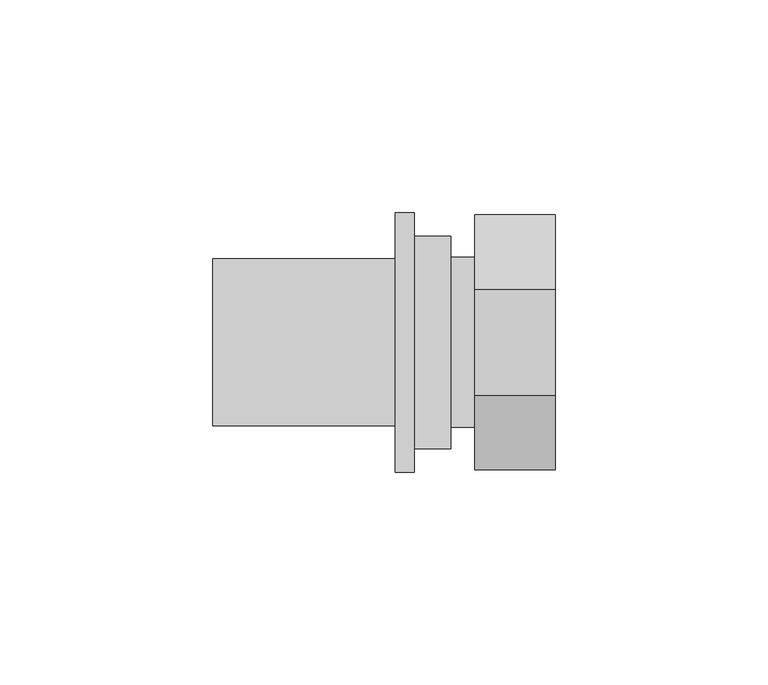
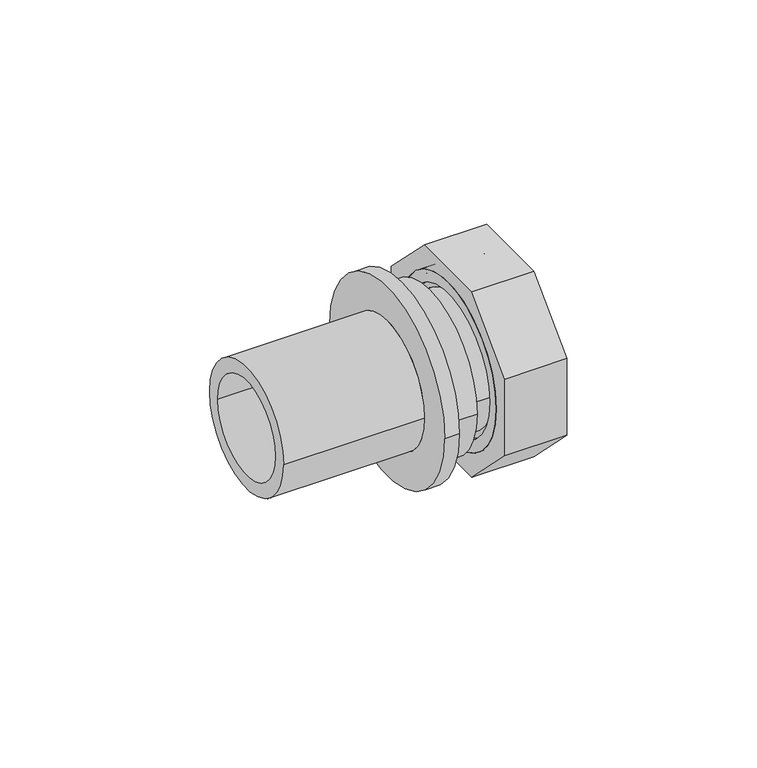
"""IFC4 building model written with IfcOpenShell, lengths in millimetres: pipe fitting geometry, REHAU_RAUTITAN_Adaptor_RX+_union nut : REHAU_RAUTITAN_Adaptor_RX+_union nut."""

import ifcopenshell
import ifcopenshell.guid

model = None  # the IFC model being written
_history = None  # IfcOwnerHistory: only IFC2X3 demands one
_inside = {}  # id of a spatial element -> (the spatial element, [elements in it])
_under = {}  # id of a project, library or spatial element -> (it, [spatial elements below it])
_declared = {}  # id of a project -> (the project, [libraries it declares])
_typed = {}  # id of a type object -> (the type object, [elements of that type])
_made_of = {}  # id of a material, layer set ... -> (it, [elements and type objects made of it])


def new_model(schema):
    """Start an empty IFC model of exactly this schema.

    Asked for "IFC4X3", IfcOpenShell would pick the latest addendum, in which some entities
    have other attributes; the version numbers below select the first issue.
    IFC2X3 requires an IfcOwnerHistory on every rooted entity: one is made here for all.
    """
    global model, _history
    if schema == "IFC4X3":
        model = ifcopenshell.file(schema_version=(4, 3, 0, 0))
    else:
        model = ifcopenshell.file(schema=schema)
    _inside.clear()
    _under.clear()
    _declared.clear()
    _typed.clear()
    _made_of.clear()
    _history = None
    if model.schema == "IFC2X3":
        org = make("IfcOrganization", Name="unknown")
        user = make(
            "IfcPersonAndOrganization",
            ThePerson=make("IfcPerson", FamilyName="unknown"),
            TheOrganization=org,
        )
        app = make(
            "IfcApplication",
            ApplicationDeveloper=org,
            Version="unknown",
            ApplicationFullName="unknown",
            ApplicationIdentifier="unknown",
        )
        _history = make(
            "IfcOwnerHistory",
            OwningUser=user,
            OwningApplication=app,
            ChangeAction="ADDED",
            CreationDate=0,
        )
    return model


def make(cls, **values):
    """One entity of the class cls with the attributes given. An attribute that is None is left unset."""
    return model.create_entity(
        cls, **{name: value for name, value in values.items() if value is not None}
    )


def rooted(cls, **values):
    """An entity with a GlobalId (a new one), such as an element, a storey or a relation."""
    return make(cls, GlobalId=ifcopenshell.guid.new(), OwnerHistory=_history, **values)


def si_unit(unit_type, name, prefix=None):
    """IfcSIUnit, for example si_unit("LENGTHUNIT", "METRE", prefix="MILLI")."""
    return make("IfcSIUnit", UnitType=unit_type, Prefix=prefix, Name=name)


def assignment(units):
    """IfcUnitAssignment: the units of a project."""
    return None if units is None else make("IfcUnitAssignment", Units=units)


def point(xyz):
    """IfcCartesianPoint."""
    return None if xyz is None else make("IfcCartesianPoint", Coordinates=xyz)


def direction(xyz):
    """IfcDirection."""
    return None if xyz is None else make("IfcDirection", DirectionRatios=xyz)


def frame(location, z_axis=None, x_axis=None):
    """IfcAxis2Placement3D, a coordinate frame: its origin and axes. An axis left out is left unset."""
    return make(
        "IfcAxis2Placement3D",
        Location=point(location),
        Axis=direction(z_axis),
        RefDirection=direction(x_axis),
    )


def frame_2d(location, x_axis=None):
    """IfcAxis2Placement2D, a coordinate frame in the plane: its origin and x axis."""
    return make(
        "IfcAxis2Placement2D", Location=point(location), RefDirection=direction(x_axis)
    )


def origin():
    """The frame at (0, 0, 0) with its axes left unset."""
    return frame((0.0, 0.0, 0.0))


def origin_2d():
    """The frame at (0, 0) in the plane with its x axis left unset."""
    return frame_2d((0.0, 0.0))


def place(relative_to, where):
    """IfcLocalPlacement: puts the frame where relative to a parent placement (None: the world)."""
    return make(
        "IfcLocalPlacement", PlacementRelTo=relative_to, RelativePlacement=where
    )


def context(
    kind, dimensions, precision=None, world=None, true_north=None, identifier=None
):
    """IfcGeometricRepresentationContext, for example the 3D "Model" context."""
    return make(
        "IfcGeometricRepresentationContext",
        ContextIdentifier=identifier,
        ContextType=kind,
        CoordinateSpaceDimension=dimensions,
        Precision=precision,
        WorldCoordinateSystem=world,
        TrueNorth=true_north,
    )


def project(units=None, contexts=None):
    """IfcProject with its units and contexts."""
    return rooted(
        "IfcProject",
        Name="project",
        RepresentationContexts=contexts,
        UnitsInContext=assignment(units),
    )


def spatial(cls, under=None, at=None, **own):
    """A site, building, storey or space (cls), placed at a placement, below another one or the project."""
    s = rooted(cls, ObjectPlacement=at, **own)
    if under is not None:
        _under.setdefault(under.id(), (under, []))[1].append(s)
    return s


def polyline(points):
    """IfcPolyline through the points."""
    return make("IfcPolyline", Points=[point(p) for p in points])


def circle_curve(where, radius):
    """IfcCircle in the frame where."""
    return make("IfcCircle", Position=where, Radius=radius)


def trimmed(basis, trim1, trim2, sense, master):
    """IfcTrimmedCurve: the piece of a basis curve between two trims."""
    return make(
        "IfcTrimmedCurve",
        BasisCurve=basis,
        Trim1=trim1,
        Trim2=trim2,
        SenseAgreement=sense,
        MasterRepresentation=master,
    )


def segment(curve, same_sense, transition):
    """IfcCompositeCurveSegment."""
    return make(
        "IfcCompositeCurveSegment",
        Transition=transition,
        SameSense=same_sense,
        ParentCurve=curve,
    )


def composite_curve(segments, self_intersect=None):
    """IfcCompositeCurve: segments joined end to end."""
    return make("IfcCompositeCurve", Segments=segments, SelfIntersect=self_intersect)


def outline(outer, holes=None, kind="AREA"):
    """IfcArbitraryClosedProfileDef: a profile drawn as a closed curve; with holes, ...WithVoids."""
    if holes is None:
        return make("IfcArbitraryClosedProfileDef", ProfileType=kind, OuterCurve=outer)
    return make(
        "IfcArbitraryProfileDefWithVoids",
        ProfileType=kind,
        OuterCurve=outer,
        InnerCurves=holes,
    )


def extrude(swept, where, along, depth):
    """IfcExtrudedAreaSolid: the profile swept, set in the frame where, extruded along a direction by depth."""
    return make(
        "IfcExtrudedAreaSolid",
        SweptArea=swept,
        Position=where,
        ExtrudedDirection=direction(along),
        Depth=depth,
    )


def shape(context_of_items, identifier, shape_type, items):
    """IfcShapeRepresentation: the items that make up one representation, for example the "Body"."""
    return make(
        "IfcShapeRepresentation",
        ContextOfItems=context_of_items,
        RepresentationIdentifier=identifier,
        RepresentationType=shape_type,
        Items=items,
    )


def source(mapping_origin, context_of_items, identifier, shape_type, items):
    """IfcRepresentationMap: a shape defined once, which mapped items show again and again."""
    return make(
        "IfcRepresentationMap",
        MappingOrigin=mapping_origin,
        MappedRepresentation=shape(context_of_items, identifier, shape_type, items),
    )


def transform(
    local_origin,
    x_axis=None,
    y_axis=None,
    z_axis=None,
    scale=None,
    scale2=None,
    scale3=None,
    uniform=True,
):
    """IfcCartesianTransformationOperator3D, or its non-uniform kind. x_axis, y_axis, z_axis: its Axis1, 2, 3."""
    if uniform:
        return make(
            "IfcCartesianTransformationOperator3D",
            Axis1=direction(x_axis),
            Axis2=direction(y_axis),
            LocalOrigin=point(local_origin),
            Scale=scale,
            Axis3=direction(z_axis),
        )
    return make(
        "IfcCartesianTransformationOperator3DnonUniform",
        Axis1=direction(x_axis),
        Axis2=direction(y_axis),
        LocalOrigin=point(local_origin),
        Scale=scale,
        Axis3=direction(z_axis),
        Scale2=scale2,
        Scale3=scale3,
    )


def mapped(mapping_source, mapping_target):
    """IfcMappedItem: shows the shape of a source again, moved by a transform."""
    return make(
        "IfcMappedItem", MappingSource=mapping_source, MappingTarget=mapping_target
    )


def made_of(thing, what):
    """Note that an element or type object is made of a material, layer set ...; save() writes the relation."""
    if what is not None:
        _made_of.setdefault(what.id(), (what, []))[1].append(thing)
    return thing


def element(
    cls,
    number,
    at=None,
    inside=None,
    cuts=None,
    type_object=None,
    material=None,
    context=None,
    identifier="Body",
    shape_type=None,
    held_by="IfcProductDefinitionShape",
    body=None,
    shapes=None,
    **own,
):
    """One element of the class cls, such as IfcWall. Its Tag is "e" and its number.

    at: its placement. inside: the storey or other place that contains it. cuts: it is an
    opening in that element (IfcRelVoidsElement). A single representation is given by context,
    identifier, shape_type and body (its items); several are given by shapes. held_by: the class
    of the entity that holds the representations. save() writes the other relations.
    """
    e = rooted(cls, Tag="e%d" % number, ObjectPlacement=at, **own)
    if body is not None:
        shapes = [shape(context, identifier, shape_type, body)]
    if shapes is not None:
        e.Representation = make(held_by, Representations=shapes)
    if inside is not None:
        _inside.setdefault(inside.id(), (inside, []))[1].append(e)
    if cuts is not None:
        rooted(
            "IfcRelVoidsElement", RelatingBuildingElement=cuts, RelatedOpeningElement=e
        )
    if type_object is not None:
        _typed.setdefault(type_object.id(), (type_object, []))[1].append(e)
    return made_of(e, material)


def aggregate(whole, parts):
    """IfcRelAggregates: a whole, such as a stair, and the parts it consists of."""
    return rooted("IfcRelAggregates", RelatingObject=whole, RelatedObjects=parts)


def save(model, path):
    """Write the relations noted so far, then the file.

    IfcRelAggregates (storeys below a building ...), IfcRelContainedInSpatialStructure (elements
    in a storey), IfcRelDefinesByType, IfcRelAssociatesMaterial and IfcRelDeclares: one each for
    every whole, place, type object, material and project.
    """
    for whole, parts in _under.values():
        aggregate(whole, parts)
    for where, things in _inside.values():
        rooted(
            "IfcRelContainedInSpatialStructure",
            RelatedElements=things,
            RelatingStructure=where,
        )
    for kind, things in _typed.values():
        rooted("IfcRelDefinesByType", RelatedObjects=things, RelatingType=kind)
    for what, things in _made_of.values():
        rooted("IfcRelAssociatesMaterial", RelatedObjects=things, RelatingMaterial=what)
    for by, libraries in _declared.values():
        rooted("IfcRelDeclares", RelatingContext=by, RelatedDefinitions=libraries)
    model.write(path)


def plane_surface(at):
    """IfcPlane: the flat surface through the origin of the frame at, square to its z axis."""
    return make("IfcPlane", Position=at)


def cylinder_surface(at, radius):
    """IfcCylindricalSurface: all points at the distance radius from the z axis of the frame at."""
    return make("IfcCylindricalSurface", Position=at, Radius=radius)


def revolved_surface(curve, axis_point, axis_direction):
    """IfcSurfaceOfRevolution: the curve turned about the line through axis_point along axis_direction."""
    return make(
        "IfcSurfaceOfRevolution",
        SweptCurve=make("IfcArbitraryOpenProfileDef", ProfileType="CURVE", Curve=curve),
        AxisPosition=make("IfcAxis1Placement", Location=point(axis_point), Axis=direction(axis_direction)),
    )


def advanced_brep(points, edges, surfaces, faces):
    """IfcAdvancedBrep: a solid bounded by faces that lie on surfaces and meet in shared edges.

    An edge is (start, end): straight between two places in points (the first is 0);
    or (start, end, curve); or (start, end, curve, False) where it runs against its curve.
    A face is (place in surfaces, loops), or (place, loops, False) where it looks against
    its surface's normal. A loop lists edges by number (the first is 1), with a minus sign
    where the edge is run from its end to its start. The first loop is the outer one.
    """
    corners = [point(p) for p in points]
    vertices = [make("IfcVertexPoint", VertexGeometry=c) for c in corners]
    made = []
    for start, end, *more in edges:
        made.append(
            make(
                "IfcEdgeCurve",
                EdgeStart=vertices[start],
                EdgeEnd=vertices[end],
                EdgeGeometry=more[0] if more else make("IfcPolyline", Points=[corners[start], corners[end]]),
                SameSense=more[1] if len(more) > 1 else True,
            )
        )
    hull = []
    for where, loops, *sense in faces:
        bounds = []
        for j, loop in enumerate(loops):
            ring = [make("IfcOrientedEdge", EdgeElement=made[abs(k) - 1], Orientation=k > 0) for k in loop]
            bounds.append(
                make(
                    "IfcFaceOuterBound" if j == 0 else "IfcFaceBound",
                    Bound=make("IfcEdgeLoop", EdgeList=ring),
                    Orientation=True,
                )
            )
        hull.append(make("IfcAdvancedFace", Bounds=bounds, FaceSurface=surfaces[where], SameSense=sense[0] if sense else True))
    return make("IfcAdvancedBrep", Outer=make("IfcClosedShell", CfsFaces=hull))


def pipe_fitting_44745cd8(model_context):
    return source(origin(), model_context, "Body", "SolidModel", [
        extrude(outline(polyline([(-12.4264069, -30.0), (-30.0, -12.4264069), (-30.0, 12.4264069), (-12.4264069, 30.0), (12.4264069, 30.0), (30.0, 12.4264069), (30.0, -12.4264069), (12.4264069, -30.0), (-12.4264069, -30.0)]), holes=[composite_curve([segment(trimmed(circle_curve(origin_2d(), 25.5), [point((-25.5, 0.0))], [point((25.5, 0.0))], True, "CARTESIAN"), True, "CONTINUOUS"), segment(trimmed(circle_curve(origin_2d(), 25.5), [point((25.5, 0.0))], [point((-25.5, 0.0))], True, "CARTESIAN"), True, "CONTINUOUS")], self_intersect=False)]), frame((5.6, 0.0, 0.0), z_axis=(1.0, 0.0, 0.0), x_axis=(0.0, 1.0, 0.0)), (0.0, 0.0, 1.0), 19.0),
        advanced_brep(
        [(24.6, 25.5, 0.0), (24.6, -25.5, 0.0), (5.6, -25.5, 0.0), (5.6, 25.5, 0.0), (7.6, 23.95, 0.0), (7.6, -23.95, 0.0), (24.6, -23.95, 0.0), (24.6, 23.95, 0.0), (5.6, 21.95, 0.0), (5.6, -21.95, 0.0), (7.6, -21.95, 0.0), (7.6, 21.95, 0.0)],
        [
            (0, 1, circle_curve(frame((24.6, 0.0, 0.0), z_axis=(-1.0, 0.0, 0.0), x_axis=(0.0, -1.0, 0.0)), 25.5)),
            (1, 2),
            (2, 3, circle_curve(frame((5.6, 0.0, 0.0), z_axis=(1.0, 0.0, 0.0), x_axis=(0.0, -1.0, 0.0)), 25.5)),
            (3, 0),
            (4, 5, circle_curve(frame((7.6, 0.0, 0.0), z_axis=(-1.0, 0.0, 0.0), x_axis=(0.0, -1.0, 0.0)), 23.95)),
            (5, 6),
            (6, 7, circle_curve(frame((24.6, 0.0, 0.0), z_axis=(1.0, 0.0, 0.0), x_axis=(0.0, -1.0, 0.0)), 23.95)),
            (7, 4),
            (8, 9, circle_curve(frame((5.6, 0.0, 0.0), z_axis=(-1.0, 0.0, 0.0), x_axis=(0.0, -1.0, 0.0)), 21.95)),
            (9, 10),
            (10, 11, circle_curve(frame((7.6, 0.0, 0.0), z_axis=(1.0, 0.0, 0.0), x_axis=(0.0, -1.0, 0.0)), 21.95)),
            (11, 8),
            (1, 0, circle_curve(frame((24.6, 0.0, 0.0), z_axis=(-1.0, 0.0, 0.0), x_axis=(0.0, 1.0, 0.0)), 25.5)),
            (3, 2, circle_curve(frame((5.6, 0.0, 0.0), z_axis=(1.0, 0.0, 0.0), x_axis=(0.0, 1.0, 0.0)), 25.5)),
            (6, 7, circle_curve(frame((24.6, 0.0, 0.0), z_axis=(-1.0, 0.0, 0.0), x_axis=(0.0, 1.0, 0.0)), 23.95)),
            (5, 4, circle_curve(frame((7.6, 0.0, 0.0), z_axis=(-1.0, 0.0, 0.0), x_axis=(0.0, 1.0, 0.0)), 23.95)),
            (10, 11, circle_curve(frame((7.6, 0.0, 0.0), z_axis=(-1.0, 0.0, 0.0), x_axis=(0.0, 1.0, 0.0)), 21.95)),
            (9, 8, circle_curve(frame((5.6, 0.0, 0.0), z_axis=(-1.0, 0.0, 0.0), x_axis=(0.0, 1.0, 0.0)), 21.95)),
        ],
        [
            cylinder_surface(frame((0.0, 0.0, 0.0), z_axis=(1.0, 0.0, 0.0), x_axis=(0.0, -1.0, 0.0)), 25.5),
            revolved_surface(polyline([(24.6, -23.95, 0.0), (7.6, -23.95, 0.0)]), (0.0, 0.0, 0.0), (1.0, 0.0, 0.0)),
            revolved_surface(polyline([(7.6, -21.95, 0.0), (5.6, -21.95, 0.0)]), (0.0, 0.0, 0.0), (1.0, 0.0, 0.0)),
            cylinder_surface(frame((0.0, 0.0, 0.0), z_axis=(1.0, 0.0, 0.0), x_axis=(0.0, 1.0, 0.0)), 25.5),
            plane_surface(frame((24.6, 0.0, 0.0), z_axis=(1.0, 0.0, 0.0), x_axis=(0.0, 1.0, 0.0))),
            revolved_surface(polyline([(24.6, 23.95, 0.0), (7.6, 23.95, 0.0)]), (0.0, 0.0, 0.0), (1.0, 0.0, 0.0)),
            plane_surface(frame((7.6, 0.0, 0.0), z_axis=(1.0, 0.0, 0.0), x_axis=(0.0, 1.0, 0.0))),
            revolved_surface(polyline([(7.6, 21.95, 0.0), (5.6, 21.95, 0.0)]), (0.0, 0.0, 0.0), (1.0, 0.0, 0.0)),
            plane_surface(frame((5.6, 0.0, 0.0), z_axis=(-1.0, 0.0, 0.0), x_axis=(0.0, 1.0, 0.0))),
        ],
        [
            (0, [[1, 2, 3, 4]]),
            (1, [[5, 6, 7, 8]]),
            (2, [[9, 10, 11, 12]]),
            (3, [[13, -4, 14, -2]]),
            (4, [[-13, -1], [15, -7]]),
            (5, [[16, -8, -15, -6]]),
            (6, [[-16, -5], [17, -11]]),
            (7, [[18, -12, -17, -10]]),
            (8, [[-14, -3], [-18, -9]]),
        ],
    ),
        advanced_brep(
        [(7.6, 20.0, 0.0), (7.6, -20.0, 0.0), (0.0, -20.0, 0.0), (0.0, 20.0, 0.0), (11.0, 23.95, 0.0), (11.0, -23.95, 0.0), (7.6, -23.95, 0.0), (7.6, 23.95, 0.0), (1.4730817, 13.5, 0.0), (1.4730817, -13.5, 0.0), (11.0, -13.5, 0.0), (11.0, 13.5, 0.0), (0.0, 11.3264556, 0.0), (0.0, -11.3264556, 0.0), (1.4730817, -11.3264556, 0.0), (1.4730817, 11.3264556, 0.0)],
        [
            (0, 1, circle_curve(frame((7.6, 0.0, 0.0), z_axis=(-1.0, 0.0, 0.0), x_axis=(0.0, -1.0, 0.0)), 20.0)),
            (1, 2),
            (2, 3, circle_curve(frame((0.0, 0.0, 0.0), z_axis=(1.0, 0.0, 0.0), x_axis=(0.0, -1.0, 0.0)), 20.0)),
            (3, 0),
            (4, 5, circle_curve(frame((11.0, 0.0, 0.0), z_axis=(-1.0, 0.0, 0.0), x_axis=(0.0, -1.0, 0.0)), 23.95)),
            (5, 6),
            (6, 7, circle_curve(frame((7.6, 0.0, 0.0), z_axis=(1.0, 0.0, 0.0), x_axis=(0.0, -1.0, 0.0)), 23.95)),
            (7, 4),
            (8, 9, circle_curve(frame((1.4730817, 0.0, 0.0), z_axis=(-1.0, 0.0, 0.0), x_axis=(0.0, -1.0, 0.0)), 13.5)),
            (9, 10),
            (10, 11, circle_curve(frame((11.0, 0.0, 0.0), z_axis=(1.0, 0.0, 0.0), x_axis=(0.0, -1.0, 0.0)), 13.5)),
            (11, 8),
            (2, 3, circle_curve(frame((0.0, 0.0, 0.0), z_axis=(-1.0, 0.0, 0.0), x_axis=(0.0, 1.0, 0.0)), 20.0)),
            (12, 13, circle_curve(frame((0.0, 0.0, 0.0), z_axis=(1.0, 0.0, 0.0), x_axis=(0.0, 1.0, 0.0)), 11.3264556)),
            (13, 12, circle_curve(frame((0.0, 0.0, 0.0), z_axis=(1.0, 0.0, 0.0), x_axis=(0.0, -1.0, 0.0)), 11.3264556)),
            (1, 0, circle_curve(frame((7.6, 0.0, 0.0), z_axis=(-1.0, 0.0, 0.0), x_axis=(0.0, 1.0, 0.0)), 20.0)),
            (6, 7, circle_curve(frame((7.6, 0.0, 0.0), z_axis=(-1.0, 0.0, 0.0), x_axis=(0.0, 1.0, 0.0)), 23.95)),
            (5, 4, circle_curve(frame((11.0, 0.0, 0.0), z_axis=(-1.0, 0.0, 0.0), x_axis=(0.0, 1.0, 0.0)), 23.95)),
            (10, 11, circle_curve(frame((11.0, 0.0, 0.0), z_axis=(-1.0, 0.0, 0.0), x_axis=(0.0, 1.0, 0.0)), 13.5)),
            (9, 8, circle_curve(frame((1.4730817, 0.0, 0.0), z_axis=(-1.0, 0.0, 0.0), x_axis=(0.0, 1.0, 0.0)), 13.5)),
            (13, 14),
            (14, 15, circle_curve(frame((1.4730817, 0.0, 0.0), z_axis=(1.0, 0.0, 0.0), x_axis=(0.0, -1.0, 0.0)), 11.3264556)),
            (15, 12),
            (14, 15, circle_curve(frame((1.4730817, 0.0, 0.0), z_axis=(-1.0, 0.0, 0.0), x_axis=(0.0, 1.0, 0.0)), 11.3264556)),
        ],
        [
            cylinder_surface(frame((0.0, 0.0, 0.0), z_axis=(1.0, 0.0, 0.0), x_axis=(0.0, -1.0, 0.0)), 20.0),
            cylinder_surface(frame((0.0, 0.0, 0.0), z_axis=(1.0, 0.0, 0.0), x_axis=(0.0, -1.0, 0.0)), 23.95),
            revolved_surface(polyline([(11.0, -13.5, 0.0), (1.4730817, -13.5, 0.0)]), (0.0, 0.0, 0.0), (1.0, 0.0, 0.0)),
            plane_surface(frame((0.0, 0.0, 0.0), z_axis=(-1.0, 0.0, 0.0), x_axis=(0.0, 1.0, 0.0))),
            cylinder_surface(frame((0.0, 0.0, 0.0), z_axis=(1.0, 0.0, 0.0), x_axis=(0.0, 1.0, 0.0)), 20.0),
            plane_surface(frame((7.6, 0.0, 0.0), z_axis=(-1.0, 0.0, 0.0), x_axis=(0.0, 1.0, 0.0))),
            cylinder_surface(frame((0.0, 0.0, 0.0), z_axis=(1.0, 0.0, 0.0), x_axis=(0.0, 1.0, 0.0)), 23.95),
            plane_surface(frame((11.0, 0.0, 0.0), z_axis=(1.0, 0.0, 0.0), x_axis=(0.0, 1.0, 0.0))),
            revolved_surface(polyline([(11.0, 13.5, 0.0), (1.4730817, 13.5, 0.0)]), (0.0, 0.0, 0.0), (1.0, 0.0, 0.0)),
            revolved_surface(polyline([(1.4730817, -11.3264556, 0.0), (0.0, -11.3264556, 0.0)]), (0.0, 0.0, 0.0), (1.0, 0.0, 0.0)),
            plane_surface(frame((1.4730817, 0.0, 0.0), z_axis=(1.0, 0.0, 0.0), x_axis=(0.0, 1.0, 0.0))),
            revolved_surface(polyline([(1.4730817, 11.3264556, 0.0), (0.0, 11.3264556, 0.0)]), (0.0, 0.0, 0.0), (1.0, 0.0, 0.0)),
        ],
        [
            (0, [[1, 2, 3, 4]]),
            (1, [[5, 6, 7, 8]]),
            (2, [[9, 10, 11, 12]]),
            (3, [[13, -3], [14, 15]]),
            (4, [[16, -4, -13, -2]]),
            (5, [[17, -7], [-16, -1]]),
            (6, [[18, -8, -17, -6]]),
            (7, [[-18, -5], [19, -11]]),
            (8, [[20, -12, -19, -10]]),
            (9, [[-15, 21, 22, 23]]),
            (10, [[-20, -9], [24, -22]]),
            (11, [[-14, -23, -24, -21]]),
        ],
    ),
        advanced_brep(
        [(0.0, 25.0, 0.0), (0.0, -25.0, 0.0), (-8.55, -25.0, 0.0), (-8.55, 25.0, 0.0), (-56.0, 15.25, 0.0), (-56.0, -15.25, 0.0), (0.0, -15.25, 0.0), (0.0, 15.25, 0.0), (-13.0, 19.6, 0.0), (-13.0, -19.6, 0.0), (-56.0, -19.6, 0.0), (-56.0, 19.6, 0.0), (-8.55, 30.5, 0.0), (-8.55, -30.5, 0.0), (-13.0, -30.5, 0.0), (-13.0, 30.5, 0.0)],
        [
            (0, 1, circle_curve(frame((0.0, 0.0, 0.0), z_axis=(-1.0, 0.0, 0.0), x_axis=(0.0, -1.0, 0.0)), 25.0)),
            (1, 2),
            (2, 3, circle_curve(frame((-8.55, 0.0, 0.0), z_axis=(1.0, 0.0, 0.0), x_axis=(0.0, -1.0, 0.0)), 25.0)),
            (3, 0),
            (4, 5, circle_curve(frame((-56.0, 0.0, 0.0), z_axis=(-1.0, 0.0, 0.0), x_axis=(0.0, -1.0, 0.0)), 15.25)),
            (5, 6),
            (6, 7, circle_curve(frame((0.0, 0.0, 0.0), z_axis=(1.0, 0.0, 0.0), x_axis=(0.0, -1.0, 0.0)), 15.25)),
            (7, 4),
            (8, 9, circle_curve(frame((-13.0, 0.0, 0.0), z_axis=(-1.0, 0.0, 0.0), x_axis=(0.0, -1.0, 0.0)), 19.6)),
            (9, 10),
            (10, 11, circle_curve(frame((-56.0, 0.0, 0.0), z_axis=(1.0, 0.0, 0.0), x_axis=(0.0, -1.0, 0.0)), 19.6)),
            (11, 8),
            (12, 13, circle_curve(frame((-8.55, 0.0, 0.0), z_axis=(-1.0, 0.0, 0.0), x_axis=(0.0, -1.0, 0.0)), 30.5)),
            (13, 14),
            (14, 15, circle_curve(frame((-13.0, 0.0, 0.0), z_axis=(1.0, 0.0, 0.0), x_axis=(0.0, -1.0, 0.0)), 30.5)),
            (15, 12),
            (1, 0, circle_curve(frame((0.0, 0.0, 0.0), z_axis=(-1.0, 0.0, 0.0), x_axis=(0.0, 1.0, 0.0)), 25.0)),
            (3, 2, circle_curve(frame((-8.55, 0.0, 0.0), z_axis=(1.0, 0.0, 0.0), x_axis=(0.0, 1.0, 0.0)), 25.0)),
            (6, 7, circle_curve(frame((0.0, 0.0, 0.0), z_axis=(-1.0, 0.0, 0.0), x_axis=(0.0, 1.0, 0.0)), 15.25)),
            (5, 4, circle_curve(frame((-56.0, 0.0, 0.0), z_axis=(-1.0, 0.0, 0.0), x_axis=(0.0, 1.0, 0.0)), 15.25)),
            (10, 11, circle_curve(frame((-56.0, 0.0, 0.0), z_axis=(-1.0, 0.0, 0.0), x_axis=(0.0, 1.0, 0.0)), 19.6)),
            (9, 8, circle_curve(frame((-13.0, 0.0, 0.0), z_axis=(-1.0, 0.0, 0.0), x_axis=(0.0, 1.0, 0.0)), 19.6)),
            (14, 15, circle_curve(frame((-13.0, 0.0, 0.0), z_axis=(-1.0, 0.0, 0.0), x_axis=(0.0, 1.0, 0.0)), 30.5)),
            (13, 12, circle_curve(frame((-8.55, 0.0, 0.0), z_axis=(-1.0, 0.0, 0.0), x_axis=(0.0, 1.0, 0.0)), 30.5)),
        ],
        [
            cylinder_surface(frame((0.0, 0.0, 0.0), z_axis=(1.0, 0.0, 0.0), x_axis=(0.0, -1.0, 0.0)), 25.0),
            revolved_surface(polyline([(0.0, -15.25, 0.0), (-56.0, -15.25, 0.0)]), (0.0, 0.0, 0.0), (1.0, 0.0, 0.0)),
            cylinder_surface(frame((0.0, 0.0, 0.0), z_axis=(1.0, 0.0, 0.0), x_axis=(0.0, -1.0, 0.0)), 19.6),
            cylinder_surface(frame((0.0, 0.0, 0.0), z_axis=(1.0, 0.0, 0.0), x_axis=(0.0, -1.0, 0.0)), 30.5),
            cylinder_surface(frame((0.0, 0.0, 0.0), z_axis=(1.0, 0.0, 0.0), x_axis=(0.0, 1.0, 0.0)), 25.0),
            plane_surface(frame((0.0, 0.0, 0.0), z_axis=(1.0, 0.0, 0.0), x_axis=(0.0, 1.0, 0.0))),
            revolved_surface(polyline([(0.0, 15.25, 0.0), (-56.0, 15.25, 0.0)]), (0.0, 0.0, 0.0), (1.0, 0.0, 0.0)),
            plane_surface(frame((-56.0, 0.0, 0.0), z_axis=(-1.0, 0.0, 0.0), x_axis=(0.0, 1.0, 0.0))),
            cylinder_surface(frame((0.0, 0.0, 0.0), z_axis=(1.0, 0.0, 0.0), x_axis=(0.0, 1.0, 0.0)), 19.6),
            plane_surface(frame((-13.0, 0.0, 0.0), z_axis=(-1.0, 0.0, 0.0), x_axis=(0.0, 1.0, 0.0))),
            cylinder_surface(frame((0.0, 0.0, 0.0), z_axis=(1.0, 0.0, 0.0), x_axis=(0.0, 1.0, 0.0)), 30.5),
            plane_surface(frame((-8.55, 0.0, 0.0), z_axis=(1.0, 0.0, 0.0), x_axis=(0.0, 1.0, 0.0))),
        ],
        [
            (0, [[1, 2, 3, 4]]),
            (1, [[5, 6, 7, 8]]),
            (2, [[9, 10, 11, 12]]),
            (3, [[13, 14, 15, 16]]),
            (4, [[17, -4, 18, -2]]),
            (5, [[-17, -1], [19, -7]]),
            (6, [[20, -8, -19, -6]]),
            (7, [[21, -11], [-20, -5]]),
            (8, [[22, -12, -21, -10]]),
            (9, [[23, -15], [-22, -9]]),
            (10, [[24, -16, -23, -14]]),
            (11, [[-24, -13], [-18, -3]]),
        ],
    ),
    ])


if __name__ == "__main__":
    model = new_model("IFC4")
    model_context = context("Model", 3, world=origin())
    ifc_project = project(units=[si_unit("LENGTHUNIT", "METRE", prefix="MILLI")], contexts=[model_context])
    site = spatial("IfcSite", under=ifc_project)
    building = spatial("IfcBuilding", under=site)
    placement = place(None, origin())
    pipe_fitting_shape = pipe_fitting_44745cd8(model_context)
    element("IfcPipeFitting", 1, ObjectType="REHAU_RAUTITAN_Adaptor_RX+_union nut : REHAU_RAUTITAN_Adaptor_RX+_union nut", at=placement, inside=building, context=model_context, shape_type="MappedRepresentation", body=[
        mapped(pipe_fitting_shape, transform((0.0, 0.0, 0.0), x_axis=(1.0, 0.0, 0.0), y_axis=(0.0, 1.0, 0.0), z_axis=(0.0, 0.0, 1.0))),
    ])
    save(model, "model.ifc")
